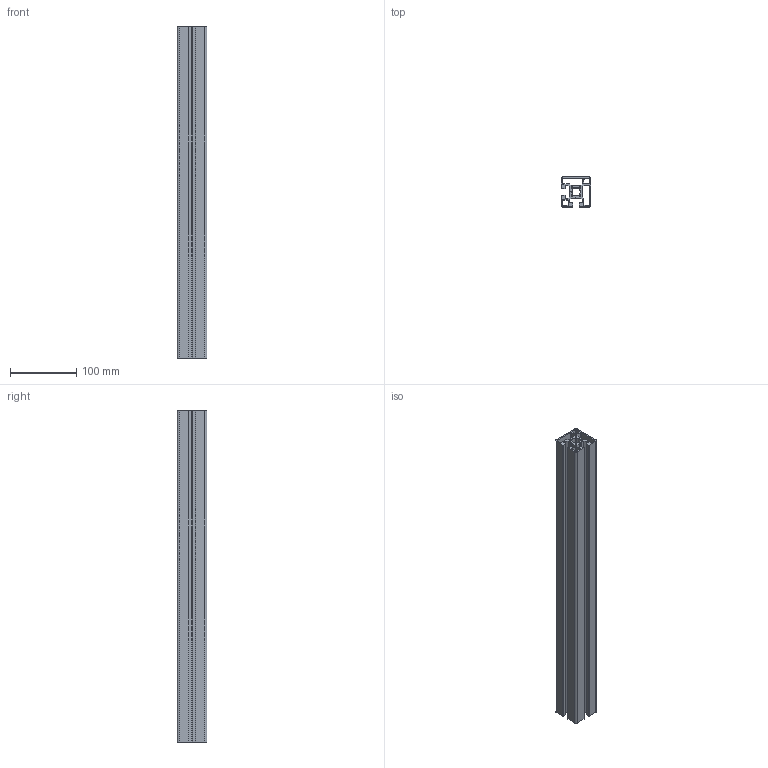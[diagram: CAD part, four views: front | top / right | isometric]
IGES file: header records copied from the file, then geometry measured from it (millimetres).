
Start section: SolidWorks IGES file using analytic representation for surfaces
Global section: file name: C:\Documents and Settings\Administrator\デスクトップ\指定保存後4回目\SolidWorks\SF\SF40・45\Frame\SFF-F44.IGS,41HSolidWorks; native system: 2006 by SolidWorks Corporation; preprocessor: SolidWorks 2006 by SolidWorks Corporation; author: Administrator; date: 061218.111241; units: millimetre
Bounding box: 45 x 45 x 500 mm (x, y, z)
Volume: 358760.5 mm3; surface area: 280385 mm2
Topology: 1 solids, 1 shells, 113 faces, 333 edges, 222 vertices
Faces by surface type: plane 62, revolution 51
